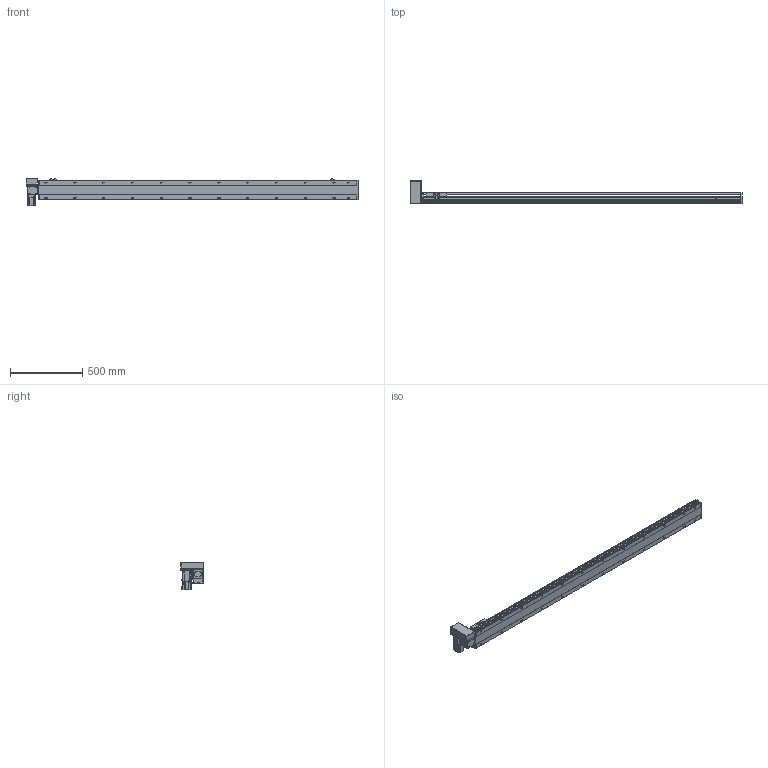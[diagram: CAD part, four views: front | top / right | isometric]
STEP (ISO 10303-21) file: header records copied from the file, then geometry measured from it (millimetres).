
FILE_DESCRIPTION( ( 'STEP AP214' ), '1' );
FILE_NAME( 'x:/temp/worker_1/temp/exporttempdir_5824_152_SkboV/format_0/PBS140-P40-S1950-RU-T40-C1-N(0).stp', '2022-06-07T05:56:09', ( 'License CC BY-ND 4.0' ), ( 'CADENAS' ), ' ', 'PARTsolutions', ' ' );
FILE_SCHEMA( ( 'AUTOMOTIVE_DESIGN { 1 0 10303 214 1 1 1 1 }' ) );
Length unit declared in the file: millimetre
Products named in the file (7): PBS140-P40-S1950-RU-T40-C1-N(0); _PBS140-S1950()_body; _PBS140T-RU_motors; _T40-p1; _PBS140_sliser; _PBS140_plant; _PBS140_sensor
Assembly tree (8 placements, depth 2):
  PBS140-P40-S1950-RU-T40-C1-N(0)
    _PBS140-S1950()_body
    _PBS140T-RU_motors
    _T40-p1
    _PBS140_sliser
    _PBS140_plant
    _PBS140_sensor  x3
Bounding box: 2304 x 162.5 x 189.7 mm (x, y, z)
Volume: 10494459.1 mm3; surface area: 1798822.1 mm2
Topology: 8 solids, 8 shells, 1139 faces, 2996 edges, 1957 vertices
Faces by surface type: plane 716, cylinder 363, cone 50, sphere 8, torus 2
Full cylindrical faces by diameter (mm): 3.242 x4, 4 x2, 4.134 x4, 4.4 x8, 4.5 x2, 4.8 x4, 4.917 x32, 5.5 x7, 6 x2, 7 x26, 7.5 x8, 8 x12, 8.5 x4, 10.5 x24, 14 x1, 30 x2, 50 x2
Entity records: 41857 total; most frequent: CARTESIAN_POINT 6923, DIRECTION 5477, ORIENTED_EDGE 5152, EDGE_CURVE 2576, AXIS2_PLACEMENT_3D 1927, VERTEX_POINT 1797, LINE 1623, VECTOR 1623
